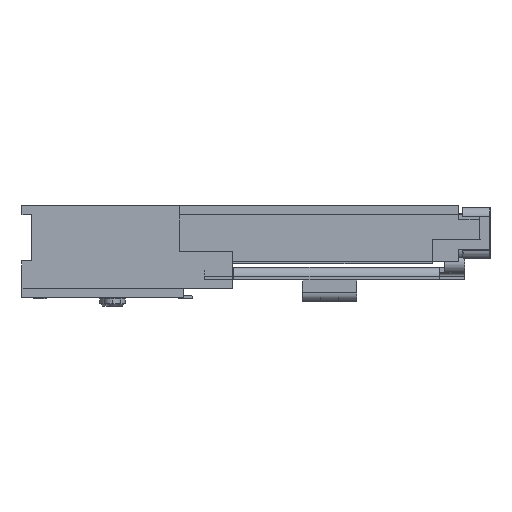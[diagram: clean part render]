
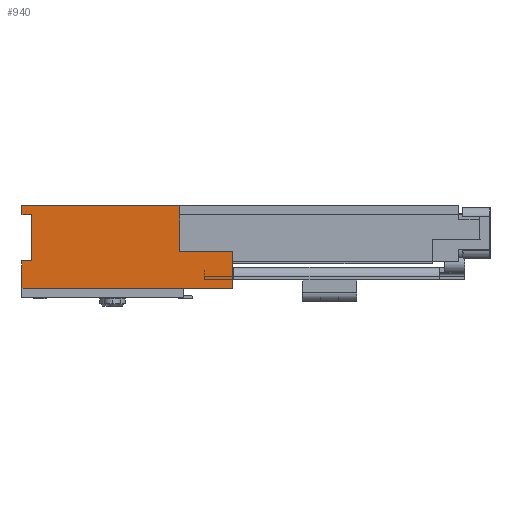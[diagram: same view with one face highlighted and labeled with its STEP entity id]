
A CAD part, left-side view. The second image highlights one B-rep face of the part: STEP entity #940.
In plain terms, the highlighted planar face has unit normal (-1, 0, 0).
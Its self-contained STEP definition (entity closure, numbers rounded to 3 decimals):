
#248 = VERTEX_POINT('',#249);
#249 = CARTESIAN_POINT('',(-33.,-6.65,2.62));
#255 = EDGE_CURVE('',#256,#248,#258,.T.);
#256 = VERTEX_POINT('',#257);
#257 = CARTESIAN_POINT('',(-33.,-6.65,0.6));
#258 = LINE('',#259,#260);
#259 = CARTESIAN_POINT('',(-33.,-6.65,0.6));
#260 = VECTOR('',#261,1.);
#261 = DIRECTION('',(0.,0.,1.));
#677 = EDGE_CURVE('',#678,#256,#680,.T.);
#678 = VERTEX_POINT('',#679);
#679 = CARTESIAN_POINT('',(-33.,5.,0.6));
#680 = LINE('',#681,#682);
#681 = CARTESIAN_POINT('',(-33.,5.,0.6));
#682 = VECTOR('',#683,1.);
#683 = DIRECTION('',(0.,-1.,0.));
#940 = ADVANCED_FACE('',(#941),#1007,.T.);
#941 = FACE_BOUND('',#942,.T.);
#942 = EDGE_LOOP('',(#943,#953,#959,#960,#961,#969,#977,#985,#993,#1001)
  );
#943 = ORIENTED_EDGE('',*,*,#944,.F.);
#944 = EDGE_CURVE('',#945,#947,#949,.T.);
#945 = VERTEX_POINT('',#946);
#946 = CARTESIAN_POINT('',(-33.,5.,2.1));
#947 = VERTEX_POINT('',#948);
#948 = CARTESIAN_POINT('',(-33.,4.5,2.1));
#949 = LINE('',#950,#951);
#950 = CARTESIAN_POINT('',(-33.,5.,2.1));
#951 = VECTOR('',#952,1.);
#952 = DIRECTION('',(0.,-1.,0.));
#953 = ORIENTED_EDGE('',*,*,#954,.F.);
#954 = EDGE_CURVE('',#678,#945,#955,.T.);
#955 = LINE('',#956,#957);
#956 = CARTESIAN_POINT('',(-33.,5.,0.6));
#957 = VECTOR('',#958,1.);
#958 = DIRECTION('',(0.,0.,1.));
#959 = ORIENTED_EDGE('',*,*,#677,.T.);
#960 = ORIENTED_EDGE('',*,*,#255,.T.);
#961 = ORIENTED_EDGE('',*,*,#962,.T.);
#962 = EDGE_CURVE('',#248,#963,#965,.T.);
#963 = VERTEX_POINT('',#964);
#964 = CARTESIAN_POINT('',(-33.,-3.7,2.62));
#965 = LINE('',#966,#967);
#966 = CARTESIAN_POINT('',(-33.,-6.65,2.62));
#967 = VECTOR('',#968,1.);
#968 = DIRECTION('',(0.,1.,0.));
#969 = ORIENTED_EDGE('',*,*,#970,.F.);
#970 = EDGE_CURVE('',#971,#963,#973,.T.);
#971 = VERTEX_POINT('',#972);
#972 = CARTESIAN_POINT('',(-33.,-3.7,5.15));
#973 = LINE('',#974,#975);
#974 = CARTESIAN_POINT('',(-33.,-3.7,5.15));
#975 = VECTOR('',#976,1.);
#976 = DIRECTION('',(0.,0.,-1.));
#977 = ORIENTED_EDGE('',*,*,#978,.F.);
#978 = EDGE_CURVE('',#979,#971,#981,.T.);
#979 = VERTEX_POINT('',#980);
#980 = CARTESIAN_POINT('',(-33.,5.,5.15));
#981 = LINE('',#982,#983);
#982 = CARTESIAN_POINT('',(-33.,5.,5.15));
#983 = VECTOR('',#984,1.);
#984 = DIRECTION('',(0.,-1.,0.));
#985 = ORIENTED_EDGE('',*,*,#986,.F.);
#986 = EDGE_CURVE('',#987,#979,#989,.T.);
#987 = VERTEX_POINT('',#988);
#988 = CARTESIAN_POINT('',(-33.,5.,4.65));
#989 = LINE('',#990,#991);
#990 = CARTESIAN_POINT('',(-33.,5.,4.65));
#991 = VECTOR('',#992,1.);
#992 = DIRECTION('',(0.,0.,1.));
#993 = ORIENTED_EDGE('',*,*,#994,.T.);
#994 = EDGE_CURVE('',#987,#995,#997,.T.);
#995 = VERTEX_POINT('',#996);
#996 = CARTESIAN_POINT('',(-33.,4.5,4.65));
#997 = LINE('',#998,#999);
#998 = CARTESIAN_POINT('',(-33.,5.,4.65));
#999 = VECTOR('',#1000,1.);
#1000 = DIRECTION('',(0.,-1.,0.));
#1001 = ORIENTED_EDGE('',*,*,#1002,.T.);
#1002 = EDGE_CURVE('',#995,#947,#1003,.T.);
#1003 = LINE('',#1004,#1005);
#1004 = CARTESIAN_POINT('',(-33.,4.5,4.65));
#1005 = VECTOR('',#1006,1.);
#1006 = DIRECTION('',(0.,0.,-1.));
#1007 = PLANE('',#1008);
#1008 = AXIS2_PLACEMENT_3D('',#1009,#1010,#1011);
#1009 = CARTESIAN_POINT('',(-33.,5.,0.6));
#1010 = DIRECTION('',(-1.,0.,0.));
#1011 = DIRECTION('',(0.,-1.,0.));
